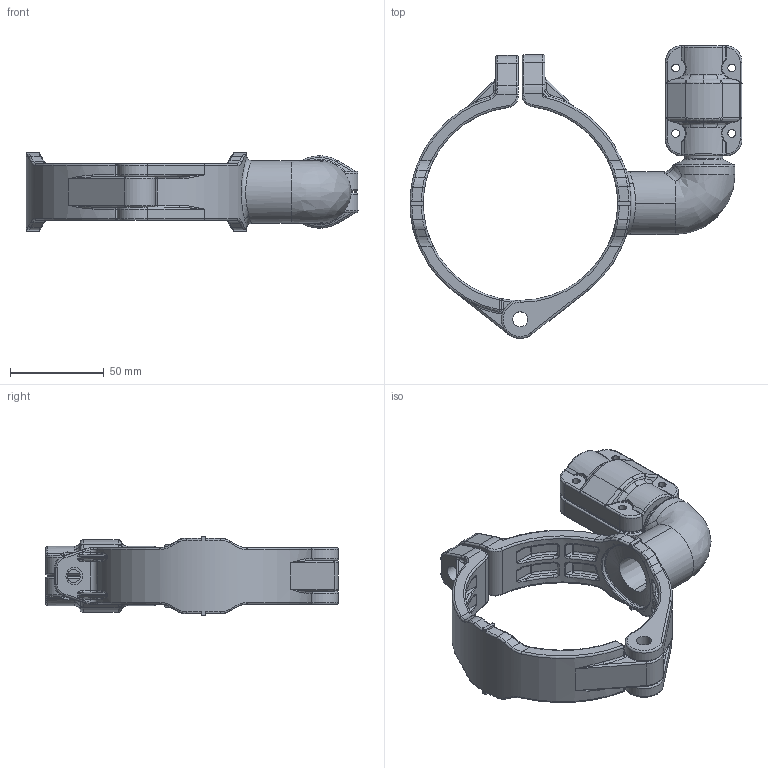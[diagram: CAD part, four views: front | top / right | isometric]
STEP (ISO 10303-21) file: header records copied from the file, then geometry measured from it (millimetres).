
FILE_DESCRIPTION((''),'2;1');
FILE_NAME('2015811099_ASM_3_ASM','2017-05-15T',('Administrator'),(''),'PRO/ENGINEER BY PARAMETRIC TECHNOLOGY CORPORATION, 2009360','PRO/ENGINEER BY PARAMETRIC TECHNOLOGY CORPORATION, 2009360','');
FILE_SCHEMA(('AUTOMOTIVE_DESIGN_CC2 { 1 2 10303 214 -1 1 5 2 }'));
Length unit declared in the file: millimetre
Products named in the file (8): 2017_8110_00_1_1; 201782100001_1_1; 2017811000_ASM_3_ASM_1_ASM; 2017811000_ASM_ASM_1_ASM; 201510020000_38_1; 201510020001_10_1; 2015100200_ASM_1_ASM; 2015811099_ASM_3_ASM
Assembly tree (7 placements, depth 4):
  2015811099_ASM_3_ASM
    2017811000_ASM_ASM_1_ASM
      2017811000_ASM_3_ASM_1_ASM
        2017_8110_00_1_1
        201782100001_1_1
    2015100200_ASM_1_ASM
      201510020000_38_1
      201510020001_10_1
Bounding box: 177.53 x 156.59 x 42.62 mm (x, y, z)
Volume: 163418.7 mm3; surface area: 66872.7 mm2
Topology: 4 solids, 10 shells, 1176 faces, 2859 edges, 1643 vertices
Faces by surface type: cylinder 371, bspline 328, torus 211, plane 172, sphere 76, cone 18
Entity records: 61703 total; most frequent: CARTESIAN_POINT 28478, ORIENTED_EDGE 5552, DIRECTION 4745, EDGE_CURVE 2776, PRESENTATION_STYLE_ASSIGNMENT 2272, STYLED_ITEM 2272, AXIS2_PLACEMENT_3D 2041, CURVE_STYLE 1906
